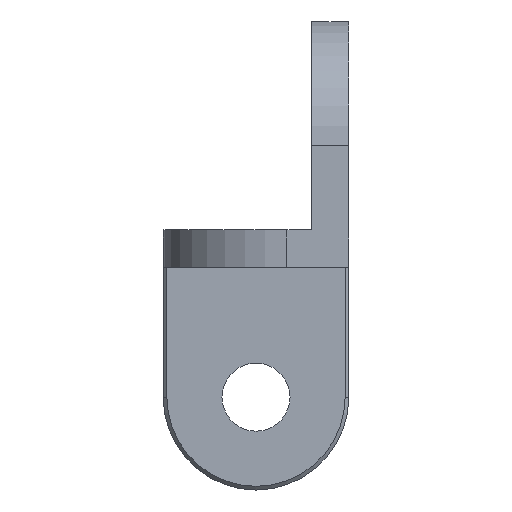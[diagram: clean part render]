
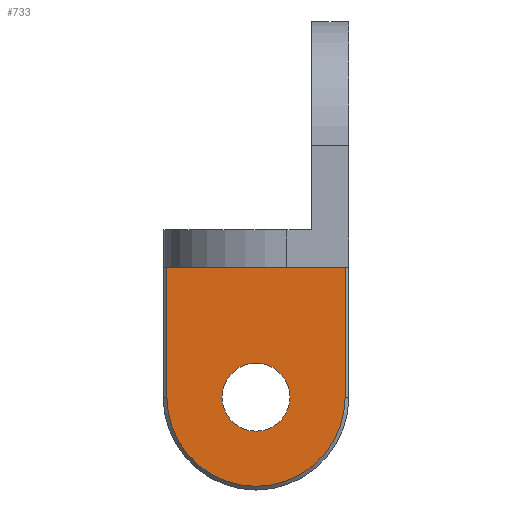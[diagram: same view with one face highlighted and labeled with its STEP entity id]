
A CAD part, left-side view. The second image highlights one B-rep face of the part: STEP entity #733.
In plain terms, the highlighted planar face has unit normal (-1, 0, 0).
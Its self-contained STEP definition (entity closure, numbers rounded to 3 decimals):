
#31=FACE_BOUND('',#128,.T.);
#48=PLANE('',#812);
#83=FACE_OUTER_BOUND('',#127,.T.);
#127=EDGE_LOOP('',(#627,#628,#629,#630));
#128=EDGE_LOOP('',(#631));
#164=LINE('',#1109,#238);
#167=LINE('',#1118,#241);
#208=LINE('',#1224,#282);
#238=VECTOR('',#884,10.);
#241=VECTOR('',#895,10.);
#282=VECTOR('',#1000,10.);
#303=CIRCLE('',#778,7.2);
#316=CIRCLE('',#809,2.75);
#345=VERTEX_POINT('',#1102);
#348=VERTEX_POINT('',#1107);
#349=VERTEX_POINT('',#1111);
#350=VERTEX_POINT('',#1116);
#382=VERTEX_POINT('',#1216);
#418=EDGE_CURVE('',#348,#345,#164,.T.);
#420=EDGE_CURVE('',#349,#348,#303,.T.);
#423=EDGE_CURVE('',#350,#349,#167,.T.);
#473=EDGE_CURVE('',#382,#382,#316,.T.);
#477=EDGE_CURVE('',#345,#350,#208,.T.);
#627=ORIENTED_EDGE('',*,*,#423,.F.);
#628=ORIENTED_EDGE('',*,*,#477,.F.);
#629=ORIENTED_EDGE('',*,*,#418,.F.);
#630=ORIENTED_EDGE('',*,*,#420,.F.);
#631=ORIENTED_EDGE('',*,*,#473,.T.);
#733=ADVANCED_FACE('',(#83,#31),#48,.F.);
#778=AXIS2_PLACEMENT_3D('',#1113,#888,#889);
#809=AXIS2_PLACEMENT_3D('',#1217,#990,#991);
#812=AXIS2_PLACEMENT_3D('',#1223,#998,#999);
#884=DIRECTION('',(0.,0.,1.));
#888=DIRECTION('center_axis',(1.,0.,0.));
#889=DIRECTION('ref_axis',(0.,-1.,0.));
#895=DIRECTION('',(0.,0.,-1.));
#990=DIRECTION('center_axis',(1.,0.,0.));
#991=DIRECTION('ref_axis',(0.,1.,0.));
#998=DIRECTION('center_axis',(1.,0.,0.));
#999=DIRECTION('ref_axis',(0.,1.,0.));
#1000=DIRECTION('',(0.,-1.,0.));
#1102=CARTESIAN_POINT('',(-4.5,14.7,-3.));
#1107=CARTESIAN_POINT('',(-4.5,14.7,-13.5));
#1109=CARTESIAN_POINT('',(-4.5,14.7,-6.75));
#1111=CARTESIAN_POINT('',(-4.5,0.3,-13.5));
#1113=CARTESIAN_POINT('Origin',(-4.5,7.5,-13.5));
#1116=CARTESIAN_POINT('',(-4.5,0.3,-3.));
#1118=CARTESIAN_POINT('',(-4.5,0.3,3.448));
#1216=CARTESIAN_POINT('',(-4.5,4.75,-13.5));
#1217=CARTESIAN_POINT('Origin',(-4.5,7.5,-13.5));
#1223=CARTESIAN_POINT('Origin',(-4.5,7.5,-12.));
#1224=CARTESIAN_POINT('',(-4.5,3.75,-3.));
